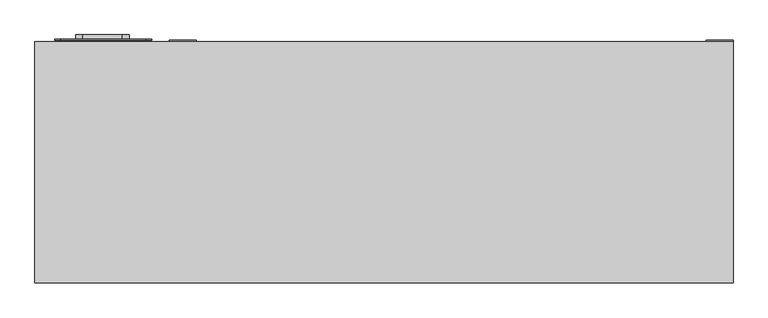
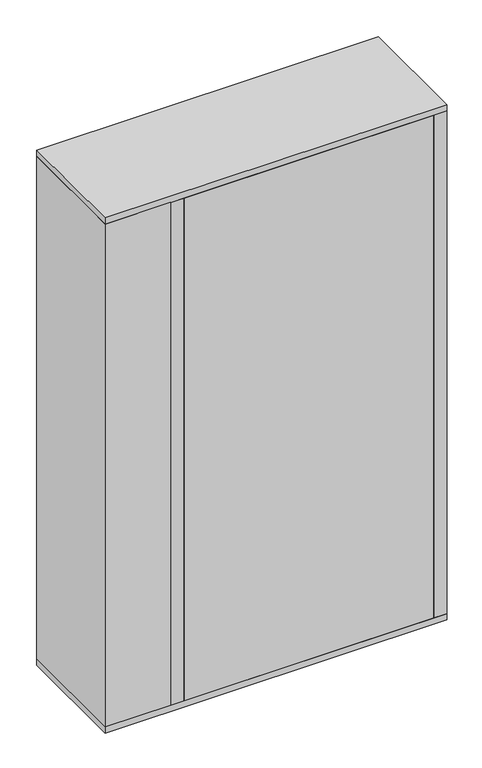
"""IFC4 building model written with IfcOpenShell, lengths in millimetres: proxy geometry, BIMHealth-Scope_Dryer_Endoscope-LOD2A-v1 : BIMHealth-Scope_Dryer_Endoscope-LOD2A-v1."""

from ifc_helpers import new_model, si_unit, point, frame, frame_2d, origin, origin_with_axes, place, context, project, spatial, polyline, circle_curve, trimmed, segment, composite_curve, outline, extrude, faceted_brep, source, transform, mapped, element, save


def generic_models_96e959f5(model_context):
    return source(origin(), model_context, "Body", "SolidModel", [
        faceted_brep([(124.0, 225.0, 2045.0), (104.0, 225.0, 2045.0), (104.0, 220.0, 2045.0), (114.0, 220.0, 2045.0), (119.0, 220.0, 2045.0), (119.0, 200.0, 2045.0), (79.0, 200.0, 2045.0), (54.0, 225.0, 2045.0), (-350.0, 225.0, 2045.0), (-350.0, 220.0, 2045.0), (51.9289322, 220.0, 2045.0), (76.9289322, 195.0, 2045.0), (124.0, 195.0, 2045.0), (124.0, 225.0, 25.0), (124.0, 195.0, 25.0), (76.9289322, 195.0, 25.0), (51.9289322, 220.0, 25.0), (-350.0, 220.0, 25.0), (-350.0, 225.0, 25.0), (54.0, 225.0, 25.0), (79.0, 200.0, 25.0), (119.0, 200.0, 25.0), (119.0, 220.0, 25.0), (114.0, 220.0, 25.0), (104.0, 220.0, 25.0), (104.0, 225.0, 25.0), (-76.0, 220.0, 1845.0), (-76.0, 220.0, 225.0), (-275.0, 220.0, 225.0), (-275.0, 220.0, 1845.0), (-76.0, 225.0, 1845.0), (-275.0, 225.0, 1845.0), (-275.0, 225.0, 225.0), (-76.0, 225.0, 225.0)], [[[0, 1, 2, 3, 4, 5, 6, 7, 8, 9, 10, 11, 12]], [[13, 14, 15, 16, 17, 18, 19, 20, 21, 22, 23, 24, 25]], [[0, 12, 14, 13]], [[12, 11, 15, 14]], [[11, 10, 16, 15]], [[10, 9, 17, 16], [26, 27, 28, 29]], [[8, 7, 19, 18], [30, 31, 32, 33]], [[7, 6, 20, 19]], [[6, 5, 21, 20]], [[5, 4, 22, 21]], [[4, 3, 23, 22]], [[3, 2, 24, 23]], [[2, 1, 25, 24]], [[1, 0, 13, 25]], [[17, 9, 8, 18]], [[26, 29, 31, 30]], [[29, 28, 32, 31]], [[28, 27, 33, 32]], [[27, 26, 30, 33]]]),
        faceted_brep([(126.0, 225.0, 2045.0), (126.0, 195.0, 2045.0), (173.0710678, 195.0, 2045.0), (198.0710678, 220.0, 2045.0), (600.0, 220.0, 2045.0), (600.0, 225.0, 2045.0), (196.0, 225.0, 2045.0), (171.0, 200.0, 2045.0), (131.0, 200.0, 2045.0), (131.0, 220.0, 2045.0), (136.0, 220.0, 2045.0), (146.0, 220.0, 2045.0), (146.0, 225.0, 2045.0), (126.0, 225.0, 25.0), (146.0, 225.0, 25.0), (146.0, 220.0, 25.0), (136.0, 220.0, 25.0), (131.0, 220.0, 25.0), (131.0, 200.0, 25.0), (171.0, 200.0, 25.0), (196.0, 225.0, 25.0), (600.0, 225.0, 25.0), (600.0, 220.0, 25.0), (198.0710678, 220.0, 25.0), (173.0710678, 195.0, 25.0), (126.0, 195.0, 25.0), (525.0, 220.0, 1845.0), (525.0, 220.0, 225.0), (326.0, 220.0, 225.0), (326.0, 220.0, 1845.0), (525.0, 225.0, 1845.0), (326.0, 225.0, 1845.0), (326.0, 225.0, 225.0), (525.0, 225.0, 225.0)], [[[0, 1, 2, 3, 4, 5, 6, 7, 8, 9, 10, 11, 12]], [[13, 14, 15, 16, 17, 18, 19, 20, 21, 22, 23, 24, 25]], [[1, 0, 13, 25]], [[2, 1, 25, 24]], [[3, 2, 24, 23]], [[4, 3, 23, 22], [26, 27, 28, 29]], [[6, 5, 21, 20], [30, 31, 32, 33]], [[7, 6, 20, 19]], [[8, 7, 19, 18]], [[9, 8, 18, 17]], [[10, 9, 17, 16]], [[11, 10, 16, 15]], [[12, 11, 15, 14]], [[0, 12, 14, 13]], [[4, 22, 21, 5]], [[26, 29, 31, 30]], [[29, 28, 32, 31]], [[28, 27, 33, 32]], [[27, 26, 30, 33]]]),
        extrude(outline(composite_curve([segment(trimmed(circle_curve(frame_2d((1140.8724658, -561.9078407)), 12.5), [point((1153.3724658, -561.9078407))], [point((1140.8724658, -574.4078407))], False, "CARTESIAN"), True, "CONTINUOUS"), segment(polyline([(1140.8724658, -574.4078407), (1105.8724658, -574.4078407)]), True, "CONTINUOUS"), segment(trimmed(circle_curve(frame_2d((1105.8724658, -561.9078407)), 12.5), [point((1105.8724658, -574.4078407))], [point((1093.3724658, -561.9078407))], False, "CARTESIAN"), True, "CONTINUOUS"), segment(polyline([(1093.3724658, -561.9078407), (1093.3724658, -486.9078407)]), True, "CONTINUOUS"), segment(trimmed(circle_curve(frame_2d((1105.8724658, -486.9078407)), 12.5), [point((1093.3724658, -486.9078407))], [point((1105.8724658, -474.4078407))], False, "CARTESIAN"), True, "CONTINUOUS"), segment(polyline([(1105.8724658, -474.4078407), (1140.8724658, -474.4078407)]), True, "CONTINUOUS"), segment(trimmed(circle_curve(frame_2d((1140.8724658, -486.9078407)), 12.5), [point((1140.8724658, -474.4078407))], [point((1153.3724658, -486.9078407))], False, "CARTESIAN"), True, "CONTINUOUS"), segment(polyline([(1153.3724658, -486.9078407), (1153.3724658, -561.9078407)]), True, "CONTINUOUS")], self_intersect=False)), frame((0.0, 227.5, 0.0), z_axis=(0.0, 1.0, 0.0), x_axis=(0.0, 0.0, 1.0)), (0.0, 0.0, 1.0), 10.0),
        extrude(outline(composite_curve([segment(trimmed(circle_curve(frame_2d((1490.151811, -602.9047454)), 10.0), [point((1500.151811, -602.9047454))], [point((1490.151811, -612.9047454))], False, "CARTESIAN"), True, "CONTINUOUS"), segment(polyline([(1490.151811, -612.9047454), (1410.151811, -612.9047454)]), True, "CONTINUOUS"), segment(trimmed(circle_curve(frame_2d((1410.151811, -602.9047454)), 10.0), [point((1410.151811, -612.9047454))], [point((1400.151811, -602.9047454))], False, "CARTESIAN"), True, "CONTINUOUS"), segment(polyline([(1400.151811, -602.9047454), (1400.151811, -442.9047454)]), True, "CONTINUOUS"), segment(trimmed(circle_curve(frame_2d((1410.151811, -442.9047454)), 10.0), [point((1400.151811, -442.9047454))], [point((1410.151811, -432.9047454))], False, "CARTESIAN"), True, "CONTINUOUS"), segment(polyline([(1410.151811, -432.9047454), (1490.151811, -432.9047454)]), True, "CONTINUOUS"), segment(trimmed(circle_curve(frame_2d((1490.151811, -442.9047454)), 10.0), [point((1490.151811, -432.9047454))], [point((1500.151811, -442.9047454))], False, "CARTESIAN"), True, "CONTINUOUS"), segment(polyline([(1500.151811, -442.9047454), (1500.151811, -602.9047454)]), True, "CONTINUOUS")], self_intersect=False)), frame((0.0, 227.5, 0.0), z_axis=(0.0, 1.0, 0.0), x_axis=(0.0, 0.0, 1.0)), (0.0, 0.0, 1.0), 2.0),
        extrude(outline(polyline([(600.0, -225.0), (-350.0, -225.0), (-350.0, -205.0), (600.0, -205.0), (600.0, -225.0)])), frame((0.0, 0.0, 25.0), z_axis=(0.0, 0.0, 1.0), x_axis=(1.0, 0.0, 0.0)), (0.0, 0.0, 1.0), 2020.0),
        extrude(outline(polyline([(-650.0, 225.0), (-400.0, 225.0), (-400.0, -225.0), (-650.0, -225.0), (-650.0, 225.0)])), frame((0.0, 0.0, 25.0), z_axis=(0.0, 0.0, 1.0), x_axis=(1.0, 0.0, 0.0)), (0.0, 0.0, 1.0), 2020.0),
        extrude(outline(polyline([(525.0, 220.0), (326.0, 220.0), (326.0, 222.5), (525.0, 222.5), (525.0, 220.0)])), frame((0.0, 0.0, 225.0), z_axis=(0.0, 0.0, 1.0), x_axis=(1.0, 0.0, 0.0)), (0.0, 0.0, 1.0), 1620.0),
        extrude(outline(polyline([(-76.0, 220.0), (-275.0, 220.0), (-275.0, 222.5), (-76.0, 222.5), (-76.0, 220.0)])), frame((0.0, 0.0, 225.0), z_axis=(0.0, 0.0, 1.0), x_axis=(1.0, 0.0, 0.0)), (0.0, 0.0, 1.0), 1620.0),
        extrude(outline(polyline([(650.0, 225.0), (650.0, -225.0), (-650.0, -225.0), (-650.0, 225.0), (650.0, 225.0)])), frame((0.0, 0.0, 2045.0), z_axis=(0.0, 0.0, 1.0), x_axis=(1.0, 0.0, 0.0)), (0.0, 0.0, 1.0), 25.0),
        extrude(outline(polyline([(650.0, -225.0), (600.0, -225.0), (600.0, 227.5), (650.0, 227.5), (650.0, -225.0)])), frame((0.0, 0.0, 25.0), z_axis=(0.0, 0.0, 1.0), x_axis=(1.0, 0.0, 0.0)), (0.0, 0.0, 1.0), 2020.0),
        extrude(outline(polyline([(-350.0, -225.0), (-400.0, -225.0), (-400.0, 227.5), (-350.0, 227.5), (-350.0, -225.0)])), frame((0.0, 0.0, 25.0), z_axis=(0.0, 0.0, 1.0), x_axis=(1.0, 0.0, 0.0)), (0.0, 0.0, 1.0), 2020.0),
        extrude(outline(polyline([(650.0, 225.0), (650.0, -225.0), (-650.0, -225.0), (-650.0, 225.0), (650.0, 225.0)])), origin_with_axes(), (0.0, 0.0, 1.0), 25.0),
    ])


if __name__ == "__main__":
    model = new_model("IFC4")
    model_context = context("Model", 3, world=origin())
    ifc_project = project(units=[si_unit("LENGTHUNIT", "METRE", prefix="MILLI")], contexts=[model_context])
    site = spatial("IfcSite", under=ifc_project)
    building = spatial("IfcBuilding", under=site)
    placement = place(None, origin())
    generic_models_shape = generic_models_96e959f5(model_context)
    element("IfcBuildingElementProxy", 1, Name="BIMHealth-Scope_Dryer_Endoscope-LOD2A-v1 : BIMHealth-Scope_Dryer_Endoscope-LOD2A-v1", ObjectType="BIMHealth-Scope_Dryer_Endoscope-LOD2A-v1 : BIMHealth-Scope_Dryer_Endoscope-LOD2A-v1", at=placement, inside=building, context=model_context, shape_type="MappedRepresentation", body=[
        mapped(generic_models_shape, transform((0.0, 0.0, 0.0), x_axis=(1.0, 0.0, 0.0), y_axis=(0.0, 1.0, 0.0), z_axis=(0.0, 0.0, 1.0))),
    ])
    save(model, "model.ifc")
